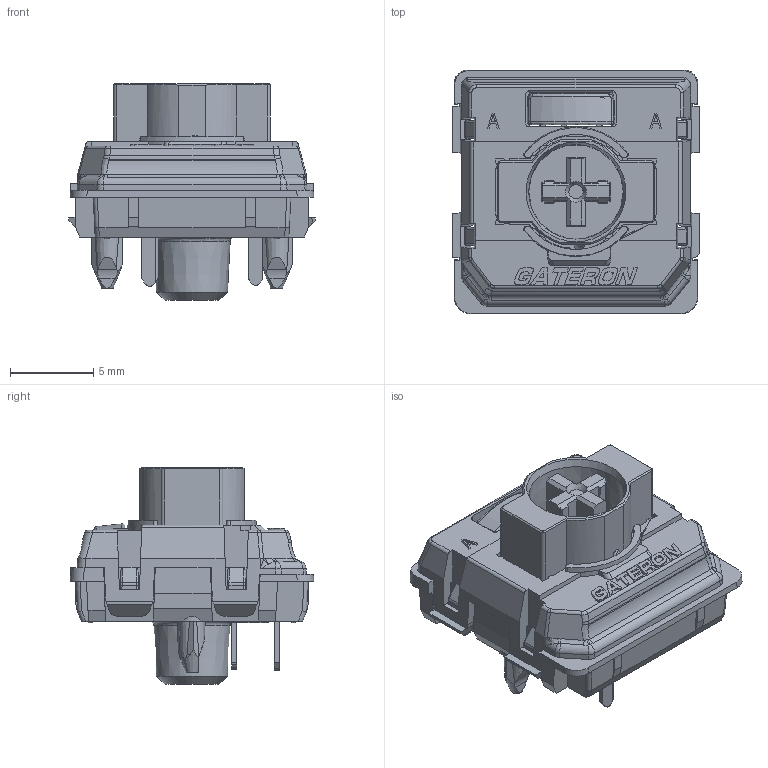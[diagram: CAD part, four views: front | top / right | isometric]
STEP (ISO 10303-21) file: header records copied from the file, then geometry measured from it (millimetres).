
FILE_DESCRIPTION(/* description */ (''),/* implementation_level */ '2;1');
FILE_NAME(/* name */ 'KS-33B-G13x.stp',/* time_stamp */ '2024-09-20T19:00:04+08:00',/* author */ (''),/* organization */ (''),/* preprocessor_version */ 'ST-DEVELOPER v14',/* originating_system */ 'SIEMENS PLM Software NX 8.0',/* authorisation */ '');
FILE_SCHEMA (('AP203_CONFIGURATION_CONTROLLED_3D_DESIGN_OF_MECHANICAL_PARTS_AND_ASSEMBLIES_MIM_LF { 1 0 10303 403 2 1 2}'));
Length unit declared in the file: millimetre
Products named in the file (1): RD-01EF0D4193y2z
Bounding box: 14.78 x 14.6 x 13 mm (x, y, z)
Volume: 1105.5 mm3; surface area: 1330.7 mm2
Topology: 1 solids, 4 shells, 969 faces, 2676 edges, 1724 vertices
Faces by surface type: plane 586, cylinder 209, bspline 73, extrusion 48, cone 42, sphere 6, torus 4, revolution 1
Full cylindrical faces by diameter (mm): 1.8 x1
Entity records: 32762 total; most frequent: CARTESIAN_POINT 8554, ORIENTED_EDGE 5302, DIRECTION 4619, EDGE_CURVE 2651, VECTOR 1796, LINE 1748, VERTEX_POINT 1715, AXIS2_PLACEMENT_3D 1411
